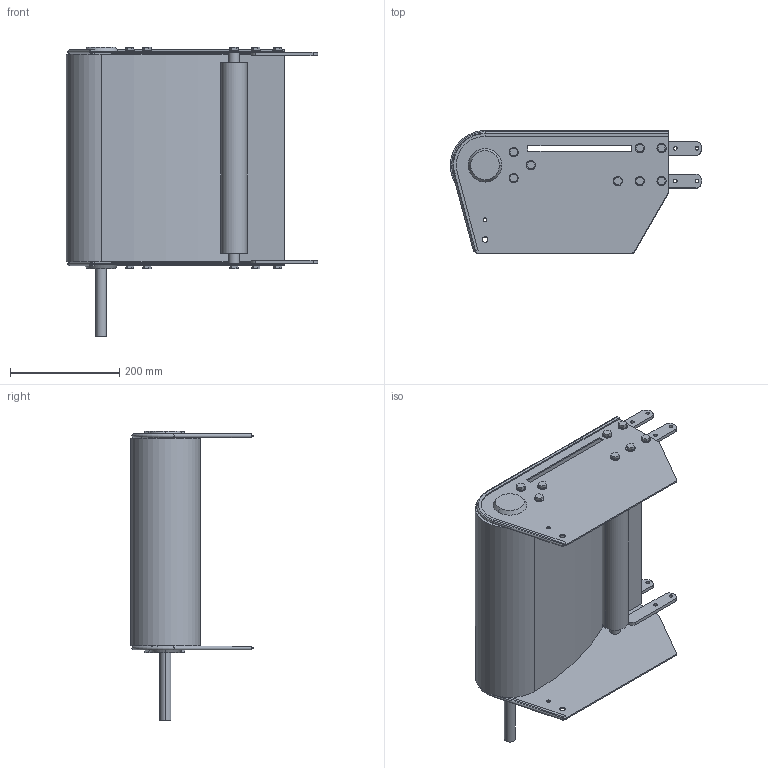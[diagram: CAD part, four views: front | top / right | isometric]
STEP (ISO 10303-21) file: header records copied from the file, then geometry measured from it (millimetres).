
FILE_DESCRIPTION (( 'STEP AP214' ), '1' );
FILE_NAME ('03.102D1R20.390 FS-390-MTS2-100.INOX Directe drive section right.STEP', '2025-02-04T12:38:02', ( '' ), ( '' ), 'SwSTEP 2.0', 'SolidWorks 2024', '' );
FILE_SCHEMA (( 'AUTOMOTIVE_DESIGN' ));
Length unit declared in the file: millimetre
Products named in the file (1): 03.102D1R20.390 FS-390-MTS2-100.INOX Directe drive section right
Bounding box: 461 x 225 x 532 mm (x, y, z)
Volume: 4773141.7 mm3; surface area: 1198158 mm2
Topology: 4 solids, 4 shells, 325 faces, 794 edges, 516 vertices
Faces by surface type: plane 223, cylinder 96, cone 4, torus 2
Entity records: 9602 total; most frequent: DIRECTION 1650, CARTESIAN_POINT 1636, ORIENTED_EDGE 1588, EDGE_CURVE 794, LINE 590, VECTOR 590, AXIS2_PLACEMENT_3D 530, VERTEX_POINT 516
